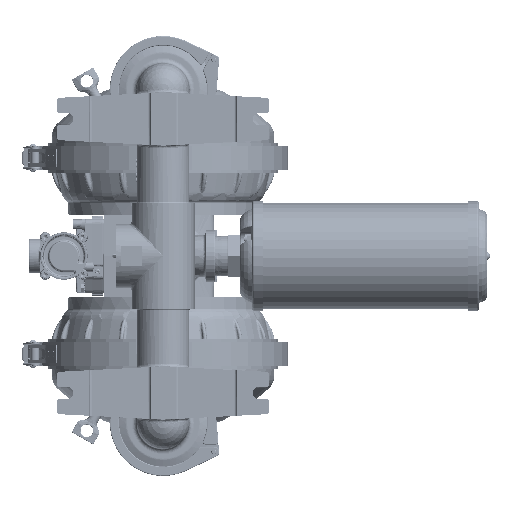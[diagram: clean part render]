
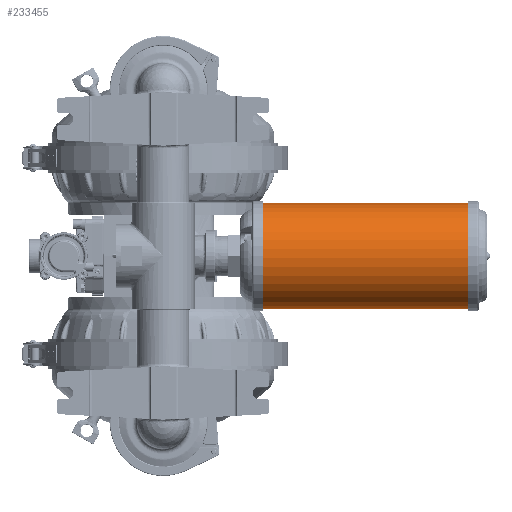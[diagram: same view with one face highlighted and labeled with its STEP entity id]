
A CAD part, front view. The second image highlights one B-rep face of the part: STEP entity #233455.
In plain terms, the highlighted cylindrical face has radius 63.5 mm (diameter 127 mm), a partial arc.
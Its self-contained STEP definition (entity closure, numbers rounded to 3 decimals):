
#26127=CARTESIAN_POINT('',(120.388,-157.226,-0.013));
#26128=DIRECTION('',(-1.,0.,0.));
#26129=DIRECTION('',(0.,0.071,0.997));
#26130=AXIS2_PLACEMENT_3D('',#26127,#26128,#26129);
#26174=CARTESIAN_POINT('',(367.42,-157.226,-0.013));
#26175=DIRECTION('',(-1.,0.,0.));
#26176=DIRECTION('',(0.,0.071,0.997));
#26177=AXIS2_PLACEMENT_3D('',#26174,#26175,#26176);
#26744=DIRECTION('',(-1.,0.,0.));
#26745=VECTOR('',#26744,247.032);
#26746=CARTESIAN_POINT('',(367.42,-152.726,63.328));
#26747=LINE('',#26746,#26745);
#26748=DIRECTION('',(1.,0.,0.));
#26749=VECTOR('',#26748,247.032);
#26750=CARTESIAN_POINT('',(120.388,-162.076,63.302));
#26751=LINE('',#26750,#26749);
#165253=CARTESIAN_POINT('',(120.388,-162.076,63.302));
#165254=VERTEX_POINT('',#165253);
#165255=CARTESIAN_POINT('',(120.388,-152.726,63.328));
#165257=VERTEX_POINT('',#165255);
#165273=CARTESIAN_POINT('',(367.42,-152.726,63.328));
#165274=VERTEX_POINT('',#165273);
#165275=CARTESIAN_POINT('',(367.42,-162.076,63.302));
#165276=VERTEX_POINT('',#165275);
#233443=CARTESIAN_POINT('',(375.65,-157.226,-0.013));
#233444=DIRECTION('',(-1.,0.,0.));
#233445=DIRECTION('',(0.,-1.,0.));
#233446=AXIS2_PLACEMENT_3D('',#233443,#233444,#233445);
#233447=CYLINDRICAL_SURFACE('',#233446,63.5);
#233448=ORIENTED_EDGE('',*,*,#232693,.F.);
#233449=ORIENTED_EDGE('',*,*,#233438,.T.);
#233450=ORIENTED_EDGE('',*,*,#232649,.T.);
#233452=ORIENTED_EDGE('',*,*,#233451,.T.);
#233453=EDGE_LOOP('',(#233448,#233449,#233450,#233452));
#233454=FACE_OUTER_BOUND('',#233453,.F.);
#233455=ADVANCED_FACE('',(#233454),#233447,.T.);
#26131=CIRCLE('',#26130,63.5);
#26178=CIRCLE('',#26177,63.5);
#232649=EDGE_CURVE('',#165257,#165254,#26131,.T.);
#232693=EDGE_CURVE('',#165274,#165276,#26178,.T.);
#233438=EDGE_CURVE('',#165274,#165257,#26747,.T.);
#233451=EDGE_CURVE('',#165254,#165276,#26751,.T.);
